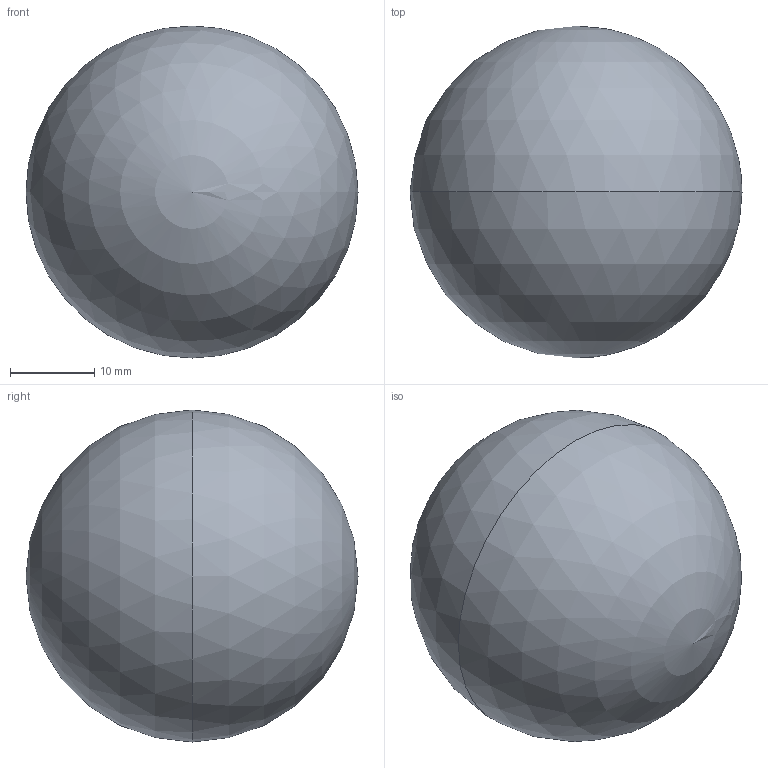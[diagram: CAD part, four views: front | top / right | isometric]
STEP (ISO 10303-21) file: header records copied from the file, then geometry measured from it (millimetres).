
FILE_DESCRIPTION (( 'STEP AP203' ), '1' );
FILE_NAME ('Power Cell (ACP).STEP', '2020-05-02T05:29:44', ( '' ), ( '' ), 'SwSTEP 2.0', 'SolidWorks 2019', '' );
FILE_SCHEMA (( 'CONFIG_CONTROL_DESIGN' ));
Length unit declared in the file: millimetre
Products named in the file (1): Power Cell (ACP)
Bounding box: 39.3 x 39.3 x 39.3 mm (x, y, z)
Volume: 31781.6 mm3; surface area: 4852.2 mm2
Topology: 1 solids, 1 shells, 2 faces, 7 edges, 5 vertices
Faces by surface type: sphere 2
Entity records: 121 total; most frequent: DIRECTION 10, PERSON_AND_ORGANIZATION 8, CARTESIAN_POINT 7, LOCAL_TIME 5, COORDINATED_UNIVERSAL_TIME_OFFSET 5, CALENDAR_DATE 5, PERSON_AND_ORGANIZATION_ROLE 5, CC_DESIGN_PERSON_AND_ORGANIZATION_ASSIGNMENT 5
